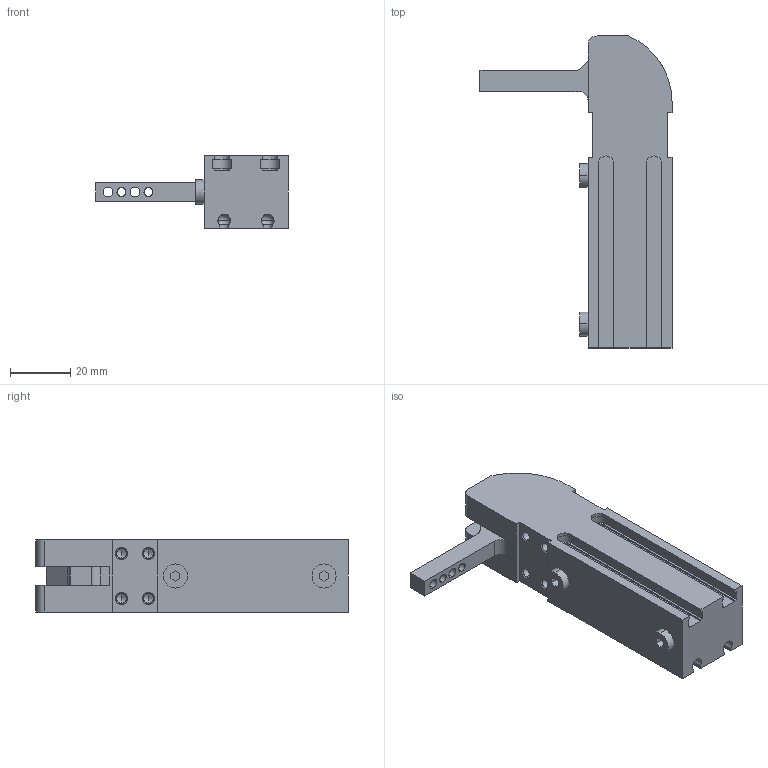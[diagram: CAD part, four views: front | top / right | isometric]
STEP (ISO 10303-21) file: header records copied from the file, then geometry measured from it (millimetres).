
FILE_DESCRIPTION((''),'2;1');
FILE_NAME('001_DESTACO_81L_POWERCLAMPS_ASM','2025-04-01T',('SYSTEM'),(''),'PRO/ENGINEER BY PARAMETRIC TECHNOLOGY CORPORATION, 2016360','PRO/ENGINEER BY PARAMETRIC TECHNOLOGY CORPORATION, 2016360','');
FILE_SCHEMA(('AUTOMOTIVE_DESIGN { 1 0 10303 214 1 1 1 1 }'));
Length unit declared in the file: metre
Products named in the file (3): 81L12-10100_BODY; 81L12-10100_HANDLE; 001_DESTACO_81L_POWERCLAMPS_ASM
Assembly tree (2 placements, depth 2):
  001_DESTACO_81L_POWERCLAMPS_ASM
    81L12-10100_BODY
    81L12-10100_HANDLE
Bounding box: 64 x 104 x 24 mm (x, y, z)
Volume: 58361.2 mm3; surface area: 18924.7 mm2
Topology: 2 solids, 4 shells, 190 faces, 614 edges, 420 vertices
Faces by surface type: plane 76, cylinder 62, cone 48, sphere 4
Entity records: 8840 total; most frequent: DIRECTION 1262, CARTESIAN_POINT 1206, ORIENTED_EDGE 1168, PRESENTATION_STYLE_ASSIGNMENT 586, STYLED_ITEM 586, CURVE_STYLE 584, EDGE_CURVE 584, AXIS2_PLACEMENT_3D 483
